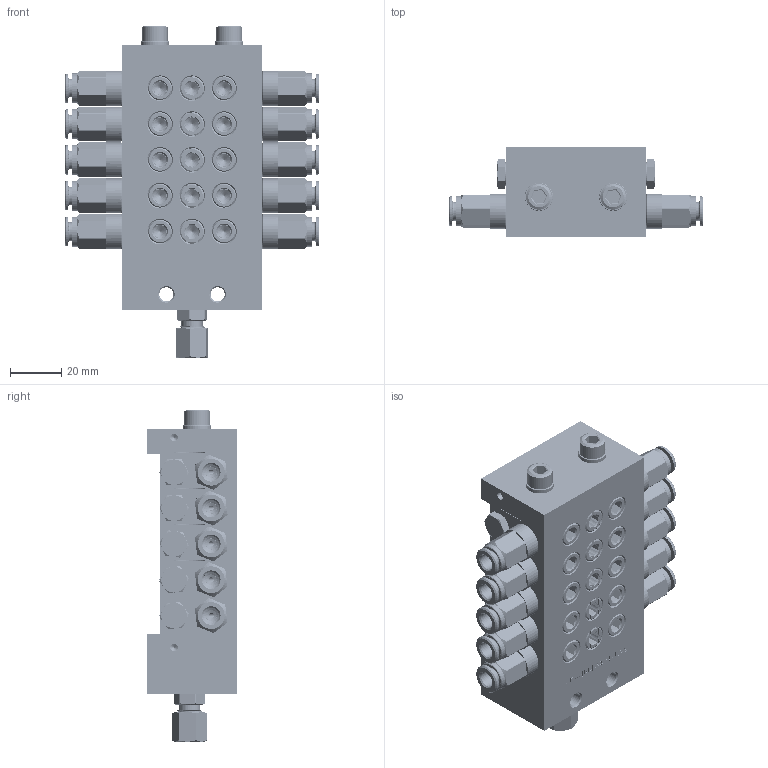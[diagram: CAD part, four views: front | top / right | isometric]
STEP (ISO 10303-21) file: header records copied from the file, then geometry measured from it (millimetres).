
FILE_DESCRIPTION (( 'STEP AP214' ), '1' );
FILE_NAME ('STW_XV_0143_10_0502_10_Auslässe.STEP', '2026-02-04T10:49:00', ( '' ), ( '' ), 'SwSTEP 2.0', 'SolidWorks 2022', '' );
FILE_SCHEMA (( 'AUTOMOTIVE_DESIGN' ));
Length unit declared in the file: millimetre
Products named in the file (18): 991214010601_Schneidring; STW_XV_Verbindungsstopen; XV_Mittelelement; U_Scheibe_6; 991214010601_Mutter; STW_XV_0143_10_0502_10_Auslässe; STW_XV_END; M6X65_DIN_912; OR 7.66X1.78_1; Verschlussstopfen_1_8_2; H200139_HDS01_6_M10X1_08.05.17; STW_XV_MITTEL_1; STW_XV_Kolbenanschlag; RIVOLUZIONE_0_2; 991214010601; 991214010601_Koerper; STW_XV_ENGANG; DR6-C_HDX_25.07.16_1
Assembly tree (49 placements, depth 3):
  STW_XV_0143_10_0502_10_Auslässe
    STW_XV_ENGANG
    STW_XV_MITTEL_1  x3
    STW_XV_END
    Verschlussstopfen_1_8_2  x6
    STW_XV_Kolbenanschlag  x6
    STW_XV_Verbindungsstopen  x3
    M6X65_DIN_912  x2
    U_Scheibe_6  x2
    991214010601
      991214010601_Koerper
      991214010601_Schneidring
      991214010601_Mutter
    XV_Mittelelement  x2
      STW_XV_MITTEL_1
      STW_XV_Kolbenanschlag
      Verschlussstopfen_1_8_2
      STW_XV_Verbindungsstopen
    H200139_HDS01_6_M10X1_08.05.17  x10
      OR 7.66X1.78_1
      DR6-C_HDX_25.07.16_1
      RIVOLUZIONE_0_2
Bounding box: 99.6 x 35 x 129.68 mm (x, y, z)
Volume: 189131.8 mm3; surface area: 109034.1 mm2
Topology: 69 solids, 69 shells, 2337 faces, 6049 edges, 3898 vertices
Faces by surface type: plane 1152, cylinder 561, cone 442, bspline 172, torus 10
Full cylindrical faces by diameter (mm): 2 x137, 3 x12, 4.2 x10, 4.5 x1, 5 x56, 5.5 x2, 5.9 x2, 6 x3, 6.2 x23, 6.3 x10, 6.4 x2, 6.5 x10, 7 x10, 7.2 x10, 7.4 x1, 7.67 x1, 8 x11, 8.3 x1, 8.4 x5, 8.5 x10, 8.6 x25, 9 x12, 9.7 x10, 9.73 x5, 9.8 x7, 9.9 x10, 10 x32, 10.3 x10, 11 x2, 11.5 x10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
Entity records: 44825 total; most frequent: CARTESIAN_POINT 22298, ORIENTED_EDGE 2994, DIRECTION 2623, EDGE_CURVE 1497, VERTEX_POINT 1072, EDGE_LOOP 1011, AXIS2_PLACEMENT_3D 938, FACE_OUTER_BOUND 812
